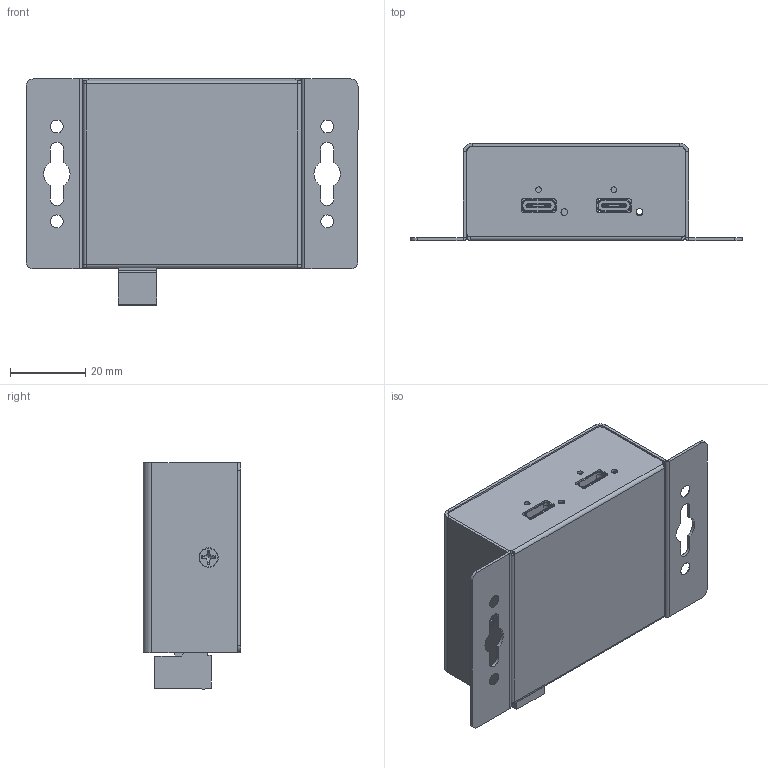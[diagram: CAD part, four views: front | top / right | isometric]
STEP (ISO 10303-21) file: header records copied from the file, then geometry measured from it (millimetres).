
FILE_DESCRIPTION(/* description */ (''),/* implementation_level */ '2;1');
FILE_NAME(/* name */ 'CG-PD110C2_Model3D_JWV1.step',/* time_stamp */ '2024-07-12T15:13:52-04:00',/* author */ (''),/* organization */ (''),/* preprocessor_version */ 'ST-DEVELOPER v20',/* originating_system */ 'Autodesk Translation Framework v12.20.1.177',/* authorisation */ '');
FILE_SCHEMA (('AUTOMOTIVE_DESIGN { 1 0 10303 214 3 1 1 }'));
Length unit declared in the file: millimetre
Products named in the file (10): (Unsaved); Case; Base; C-type Usb v3; M3X0.5 China 120ang METRIC 18-8 SS FLAT HEAD PHIL MACHINE SCREW v2 (1
); M3X0.5 China 120ang METRIC 18-8 SS FLAT HEAD PHIL MACHINE SCREW v2 (1
) (1); Conector 2dbl short dinkle_2esdsm-02p v1; Phoenix connector EDZ950/XX TERMINAL BLOCK PLUGGABLE PLUG v6; C-type Usb v3 (1); TypeC(12)
Assembly tree (10 placements, depth 4):
  (Unsaved)
    Case
    Base
      C-type Usb v3
        TypeC(12)
      M3X0.5 China 120ang METRIC 18-8 SS FLAT HEAD PHIL MACHINE SCREW v2 (1
)
        M3X0.5 China 120ang METRIC 18-8 SS FLAT HEAD PHIL MACHINE SCREW v2 (1
) (1)
      Conector 2dbl short dinkle_2esdsm-02p v1
      Phoenix connector EDZ950/XX TERMINAL BLOCK PLUGGABLE PLUG v6
    C-type Usb v3 (1)
      TypeC(12)
Bounding box: 88.2 x 25.9 x 60.1 mm (x, y, z)
Volume: 13809.3 mm3; surface area: 31657 mm2
Topology: 8 solids, 8 shells, 1501 faces, 4100 edges, 2660 vertices
Faces by surface type: plane 1072, cylinder 351, cone 40, bspline 20, sphere 10, torus 8
Full cylindrical faces by diameter (mm): 0.5 x4, 1.47 x1, 1.471 x1, 1.6 x2, 1.784 x2, 2.323 x6, 2.529 x2, 3 x8, 3.86 x2, 5.3 x4
Entity records: 33610 total; most frequent: CARTESIAN_POINT 7590, ORIENTED_EDGE 5408, DIRECTION 5213, EDGE_CURVE 2704, LINE 2043, VECTOR 2043, VERTEX_POINT 1752, AXIS2_PLACEMENT_3D 1585
